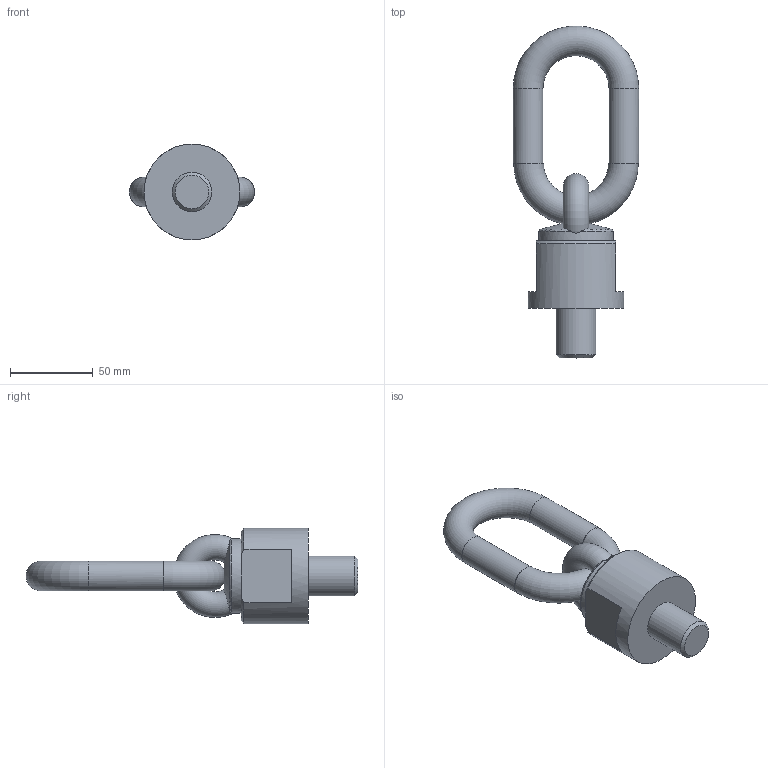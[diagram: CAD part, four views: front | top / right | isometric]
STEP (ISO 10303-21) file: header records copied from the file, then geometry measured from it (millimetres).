
FILE_DESCRIPTION( ( 'STEP AP203' ), '1' );
FILE_NAME( 'p:/temp/worker_17/temp/app_49_0201906261454583060679210e898ce_000000_00_00_000000/format_2/C800X0402430.stp', '2019-06-26T12:55:01', ( '' ), ( '' ), ' ', 'PARTsolutions', ' ' );
FILE_SCHEMA( ( 'CONFIG_CONTROL_DESIGN' ) );
Length unit declared in the file: millimetre
Products named in the file (1): _C800X0402430
Bounding box: 76 x 200.99 x 58 mm (x, y, z)
Volume: 209873.9 mm3; surface area: 33347.2 mm2
Topology: 1 solids, 1 shells, 27 faces, 67 edges, 42 vertices
Faces by surface type: plane 12, torus 5, cylinder 5, cone 5
Full cylindrical faces by diameter (mm): 18 x2, 24 x1, 45.12 x1, 58 x1
Entity records: 1124 total; most frequent: CARTESIAN_POINT 505, DIRECTION 118, ORIENTED_EDGE 106, AXIS2_PLACEMENT_3D 55, EDGE_CURVE 53, EDGE_LOOP 42, VERTEX_POINT 38, FACE_OUTER_BOUND 35
